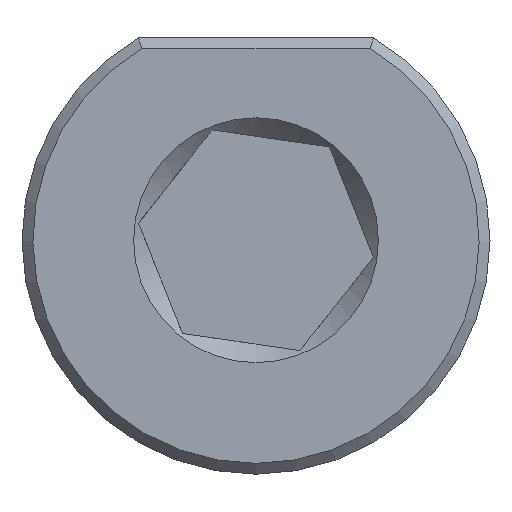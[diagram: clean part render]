
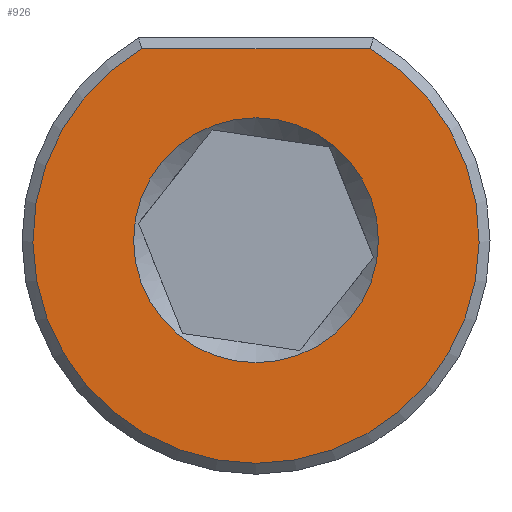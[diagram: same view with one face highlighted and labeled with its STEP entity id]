
A CAD part, front view. The second image highlights one B-rep face of the part: STEP entity #926.
In plain terms, the highlighted planar face has unit normal (0, -1, 0).
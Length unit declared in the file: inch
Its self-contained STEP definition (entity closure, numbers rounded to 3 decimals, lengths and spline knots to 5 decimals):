
#47=PLANE('',#1046);
#73=FACE_BOUND('',#180,.T.);
#119=FACE_OUTER_BOUND('',#179,.T.);
#179=EDGE_LOOP('',(#713,#714));
#180=EDGE_LOOP('',(#715));
#248=LINE('',#1628,#290);
#290=VECTOR('',#1227,0.3937);
#340=CIRCLE('',#1040,0.41);
#345=CIRCLE('',#1047,0.225);
#422=VERTEX_POINT('',#1626);
#423=VERTEX_POINT('',#1627);
#428=VERTEX_POINT('',#1650);
#529=EDGE_CURVE('',#422,#423,#248,.T.);
#533=EDGE_CURVE('',#423,#422,#340,.T.);
#538=EDGE_CURVE('',#428,#428,#345,.T.);
#713=ORIENTED_EDGE('',*,*,#529,.F.);
#714=ORIENTED_EDGE('',*,*,#533,.F.);
#715=ORIENTED_EDGE('',*,*,#538,.F.);
#926=ADVANCED_FACE('',(#119,#73),#47,.T.);
#1040=AXIS2_PLACEMENT_3D('',#1639,#1231,#1232);
#1046=AXIS2_PLACEMENT_3D('',#1649,#1243,#1244);
#1047=AXIS2_PLACEMENT_3D('',#1651,#1245,#1246);
#1227=DIRECTION('',(1.,0.,0.));
#1231=DIRECTION('center_axis',(0.,1.,0.));
#1232=DIRECTION('ref_axis',(0.,0.,-1.));
#1243=DIRECTION('center_axis',(0.,-1.,0.));
#1244=DIRECTION('ref_axis',(0.,0.,-1.));
#1245=DIRECTION('center_axis',(0.,-1.,0.));
#1246=DIRECTION('ref_axis',(0.,0.,1.));
#1626=CARTESIAN_POINT('',(-0.21023,0.,0.352));
#1627=CARTESIAN_POINT('',(0.21023,0.,0.352));
#1628=CARTESIAN_POINT('',(0.10784,0.,0.352));
#1639=CARTESIAN_POINT('Origin',(0.,0.,0.));
#1649=CARTESIAN_POINT('Origin',(0.,0.,-0.185));
#1650=CARTESIAN_POINT('',(0.,0.,-0.225));
#1651=CARTESIAN_POINT('Origin',(0.,0.,0.));
